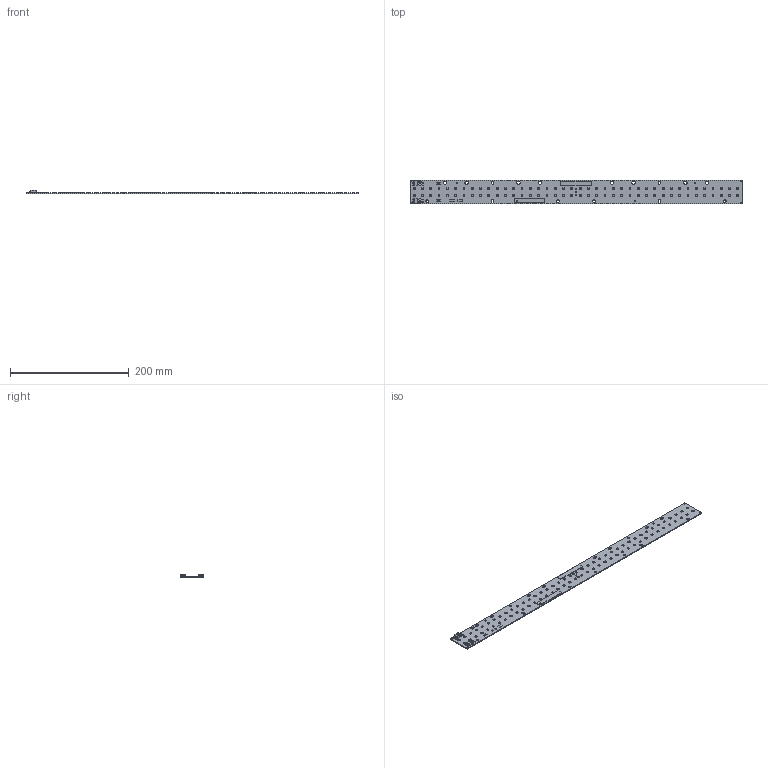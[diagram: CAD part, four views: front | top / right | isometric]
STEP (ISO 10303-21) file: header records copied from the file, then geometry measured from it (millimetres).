
FILE_DESCRIPTION((''),'2;1');
FILE_NAME('QF80SGD22_06092021_09-58-56_ASM','2021-06-09T',('SYSTEM'),(''),'PRO/ENGINEER BY PARAMETRIC TECHNOLOGY CORPORATION, 2009360','PRO/ENGINEER BY PARAMETRIC TECHNOLOGY CORPORATION, 2009360','');
FILE_SCHEMA(('AUTOMOTIVE_DESIGN_CC2 { 1 2 10303 214 -1 1 5 2 }'));
Products named in the file (13): QF80SGD22_06092021_09-58-56; 3030_S_LES; R2512; TC_R1MM; ARKALUMEN_LOGO_0_05; LABEL_BRACKET; MINUS; PLUS; ROHS; UL; FIDUCIAL_R0_5MM; WAGO_2PIN; QF80SGD22_06092021_09-58-56_ASM
Assembly tree (108 placements, depth 2):
  QF80SGD22_06092021_09-58-56_ASM
    QF80SGD22_06092021_09-58-56
    3030_S_LES  x80
    R2512  x2
    TC_R1MM  x2
    ARKALUMEN_LOGO_0_05
    LABEL_BRACKET
    MINUS  x4
    PLUS  x4
    ROHS
    UL
    FIDUCIAL_R0_5MM  x9
    WAGO_2PIN  x2
Bounding box: 559 x 40 x 6.34 mm (x, y, z)
Volume: 37209.6 mm3; surface area: 51870.8 mm2
Topology: 108 solids, 108 shells, 2322 faces, 8258 edges, 7044 vertices
Faces by surface type: plane 2128, cylinder 128, extrusion 58, sphere 8
Entity records: 27238 total; most frequent: CARTESIAN_POINT 5011, ORIENTED_EDGE 3534, DIRECTION 3273, EDGE_CURVE 1767, VECTOR 1547, LINE 1518, PRESENTATION_STYLE_ASSIGNMENT 1252, STYLED_ITEM 1252
